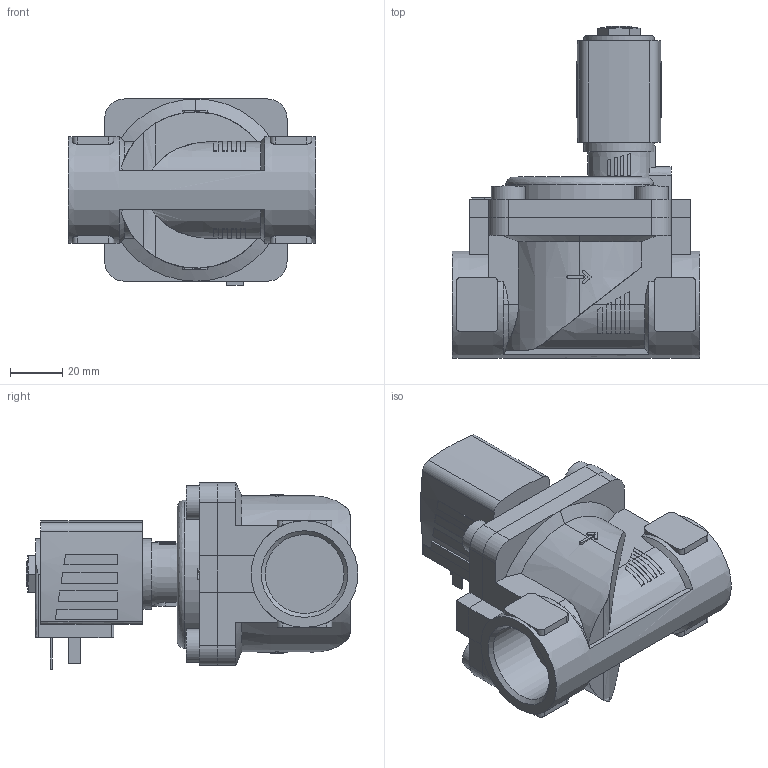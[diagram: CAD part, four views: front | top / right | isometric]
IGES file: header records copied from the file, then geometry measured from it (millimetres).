
Start section: Data from Parasolid IGES Translator 26.0.171, Copyright(c) 2006 Siemens PLM Software. All Rights Reserved.
Global section: file name: 6281-357653-2_2-Way_Solenoid_Valve__Servo-assisted__General_Purpose.igs; native system: By Siemens PLM Incorporated; preprocessor: XPlus GENERIC/IGES 26.0.171; author: Noname; organization: Noname; date: 20240827.140746; units: millimetre
Bounding box: 95 x 127.5 x 71.5 mm (x, y, z)
Surface area: 54119.7 mm2 (no closed solid volume)
Topology: 0 solids, 0 shells, 361 faces, 1888 edges, 1869 vertices
Faces by surface type: extrusion 240, revolution 121
